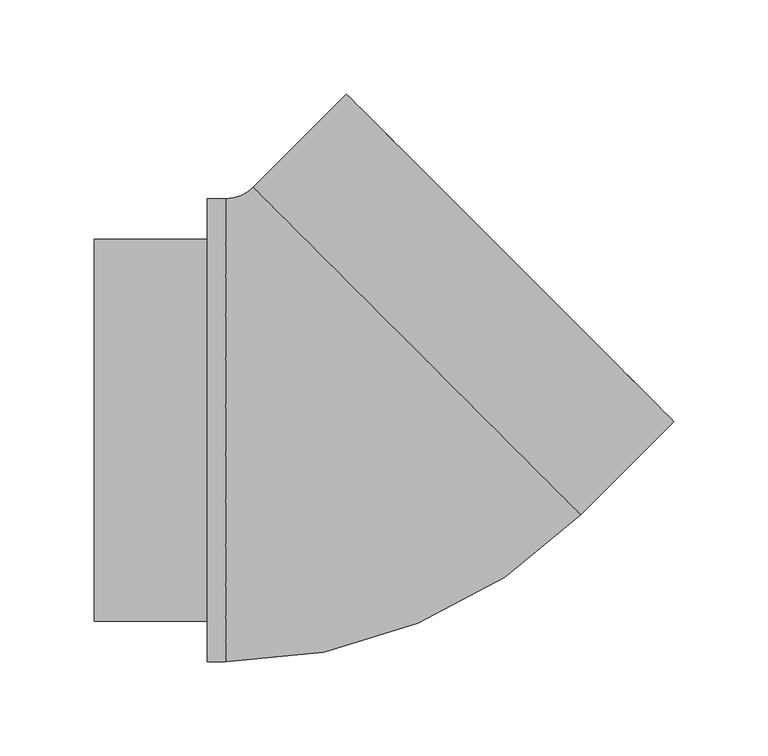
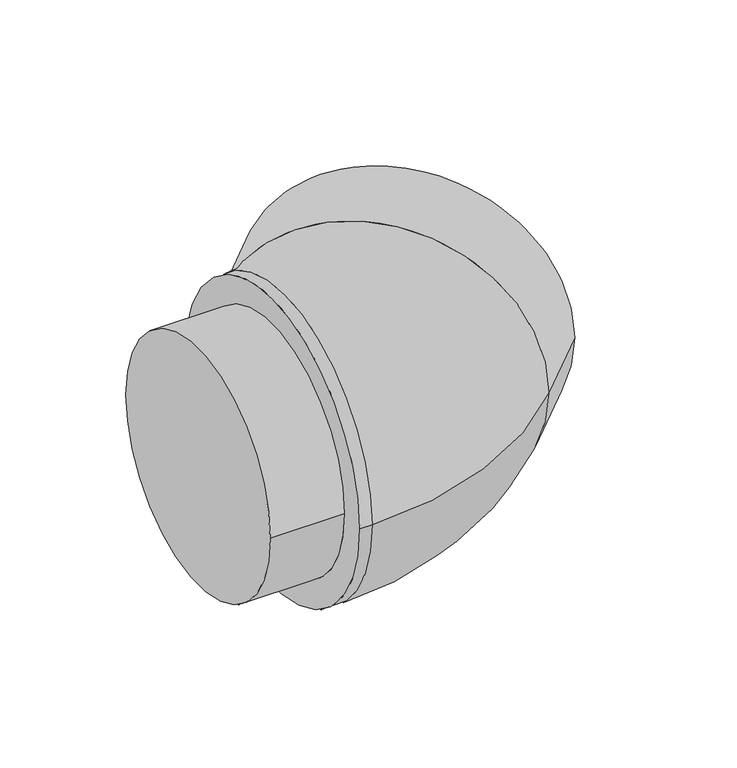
"""IFC4 building model written with IfcOpenShell, lengths in millimetres: duct fitting geometry, NLRS_57_DUF_UN_bend EPP+_MG : ø160 - ø200."""

from ifc_helpers import new_model, si_unit, point, frame, origin, place, context, project, spatial, polyline, circle_curve, ellipse_curve, trimmed, source, transform, mapped, element, save
from ifc_brep_helpers import plane_surface, cylinder_surface, revolved_surface, advanced_brep


def duct_fitting_b0555108(model_context):
    return source(origin(), model_context, "Body", "AdvancedBrep", [
        advanced_brep(
        [(-129.5, 101.5, 0.0), (-129.5, -101.5, 0.0), (-59.5, -123.0, 0.0), (-59.5, 123.0, 0.0), (-69.5, 123.0, 0.0), (-69.5, -123.0, 0.0), (129.0469876, -44.9012806, 0.0), (-44.9012806, 129.0469876, 0.0), (178.5444622, 4.5961941, 0.0), (4.5961941, 178.5444622, 0.0), (163.3416665, 19.7989899, 0.0), (19.7989899, 163.3416665, 0.0), (120.9152596, -22.627417, 0.0), (-22.627417, 120.9152596, 0.0), (-69.5, 101.5, 0.0), (-69.5, -101.5, 0.0)],
        [
            (0, 1, circle_curve(frame((-129.5, 0.0, 0.0), z_axis=(-1.0, 0.0, 0.0), x_axis=(0.0, -1.0, 0.0)), 101.5)),
            (1, 0, circle_curve(frame((-129.5, 0.0, 0.0), z_axis=(-1.0, 0.0, 0.0), x_axis=(0.0, -1.0, 0.0)), 101.5)),
            (2, 3, circle_curve(frame((-59.5, 0.0, 0.0), z_axis=(-1.0, 0.0, 0.0), x_axis=(0.0, 1.0, 0.0)), 123.0)),
            (3, 4),
            (4, 5, circle_curve(frame((-69.5, 0.0, 0.0), z_axis=(1.0, 0.0, 0.0), x_axis=(0.0, 1.0, 0.0)), 123.0)),
            (5, 2),
            (3, 2, circle_curve(frame((-59.5, 0.0, 0.0), z_axis=(-1.0, 0.0, 0.0), x_axis=(0.0, 1.0, 0.0)), 123.0)),
            (5, 4, circle_curve(frame((-69.5, 0.0, 0.0), z_axis=(1.0, 0.0, 0.0), x_axis=(0.0, 1.0, 0.0)), 123.0)),
            (2, 6, circle_curve(frame((-59.5, 143.645707, 0.0), z_axis=(0.0, 0.0, 1.0), x_axis=(0.0, -1.0, 0.0)), 266.645707)),
            (6, 7, circle_curve(frame((42.0728535, 42.0728535, 0.0), z_axis=(-0.7071067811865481, -0.7071067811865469, 0.0), x_axis=(-0.7071067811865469, 0.7071067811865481, 0.0)), 123.0)),
            (7, 3, circle_curve(frame((-59.5, 143.645707, 0.0), z_axis=(0.0, 0.0, -1.0), x_axis=(0.0, -1.0, 0.0)), 20.645707)),
            (7, 6, circle_curve(frame((42.0728535, 42.0728535, 0.0), z_axis=(-0.70710678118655, -0.707106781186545, 0.0), x_axis=(-0.707106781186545, 0.70710678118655, 0.0)), 123.0)),
            (8, 9, circle_curve(frame((91.5703282, 91.5703282, 0.0), z_axis=(0.7071067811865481, 0.707106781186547, 0.0), x_axis=(-0.707106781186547, 0.7071067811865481, 0.0)), 123.0)),
            (9, 8, circle_curve(frame((91.5703282, 91.5703282, 0.0), z_axis=(0.7071067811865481, 0.707106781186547, 0.0), x_axis=(-0.707106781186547, 0.7071067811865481, 0.0)), 123.0)),
            (10, 11, circle_curve(frame((91.5703282, 91.5703282, 0.0), z_axis=(-0.7071067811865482, -0.7071067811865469, 0.0), x_axis=(-0.7071067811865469, 0.7071067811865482, 0.0)), 101.5)),
            (11, 10, circle_curve(frame((91.5703282, 91.5703282, 0.0), z_axis=(-0.7071067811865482, -0.7071067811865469, 0.0), x_axis=(-0.7071067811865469, 0.7071067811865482, 0.0)), 101.5)),
            (6, 8),
            (9, 7),
            (12, 13, circle_curve(frame((49.1439213, 49.1439213, 0.0), z_axis=(0.7071067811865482, 0.7071067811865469, 0.0), x_axis=(-0.7071067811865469, 0.7071067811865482, 0.0)), 101.5)),
            (13, 12, circle_curve(frame((49.1439213, 49.1439213, 0.0), z_axis=(0.7071067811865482, 0.7071067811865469, 0.0), x_axis=(-0.7071067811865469, 0.7071067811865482, 0.0)), 101.5)),
            (13, 11),
            (10, 12),
            (14, 15, circle_curve(frame((-69.5, 0.0, 0.0), z_axis=(1.0, 0.0, 0.0), x_axis=(0.0, -1.0, 0.0)), 101.5)),
            (15, 14, circle_curve(frame((-69.5, 0.0, 0.0), z_axis=(1.0, 0.0, 0.0), x_axis=(0.0, -1.0, 0.0)), 101.5)),
            (15, 1),
            (0, 14),
        ],
        [
            plane_surface(frame((-129.5, 0.0, 0.0), z_axis=(-1.0, 0.0, 0.0), x_axis=(0.0, 0.0, 1.0))),
            cylinder_surface(frame((-129.5, 0.0, 0.0), z_axis=(-1.0, 0.0, 0.0), x_axis=(0.0, 1.0, 0.0)), 123.0),
            revolved_surface(trimmed(ellipse_curve(frame((-59.5, 0.0, 0.0), z_axis=(-1.0, 0.0, 0.0), x_axis=(0.0, 1.0, 0.0)), 123.0, 123.0), [point((-59.5, -123.0, 0.0))], [point((-59.5, 123.0, 0.0))], True, "CARTESIAN"), (-59.5, 143.645707, 0.0), (0.0, 0.0, 1.0)),
            revolved_surface(trimmed(ellipse_curve(frame((-59.5, 0.0, 0.0), z_axis=(-1.0, 0.0, 0.0), x_axis=(0.0, 1.0, 0.0)), 123.0, 123.0), [point((-59.5, 123.0, 0.0))], [point((-59.5, -123.0, 0.0))], True, "CARTESIAN"), (-59.5, 143.645707, 0.0), (0.0, 0.0, 1.0)),
            plane_surface(frame((91.5703282, 91.5703282, 0.0), z_axis=(0.7071067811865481, 0.707106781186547, 0.0), x_axis=(0.0, 0.0, 1.0))),
            cylinder_surface(frame((42.0728535, 42.0728535, 0.0), z_axis=(-0.7071067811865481, -0.707106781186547, 0.0), x_axis=(-0.707106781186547, 0.7071067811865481, 0.0)), 123.0),
            plane_surface(frame((49.1439213, 49.1439213, 0.0), z_axis=(0.7071067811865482, 0.7071067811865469, 0.0), x_axis=(0.0, 0.0, 1.0))),
            revolved_surface(polyline([(-22.627416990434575, 120.91525959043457, 0.0), (19.798989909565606, 163.34166649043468, 0.0)]), (49.1439213, 49.1439213, 0.0), (-0.7071067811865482, -0.7071067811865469, 0.0)),
            plane_surface(frame((-69.5, 0.0, 0.0), z_axis=(-1.0, 0.0, 0.0), x_axis=(0.0, 0.0, 1.0))),
            cylinder_surface(frame((-69.5, 0.0, 0.0), z_axis=(-1.0, 0.0, 0.0), x_axis=(0.0, -1.0, 0.0)), 101.5),
        ],
        [
            (0, [[1, 2]]),
            (1, [[3, 4, 5, 6]]),
            (1, [[7, -6, 8, -4]]),
            (2, [[-3, 9, 10, 11]]),
            (3, [[-7, -11, 12, -9]]),
            (4, [[13, 14], [15, 16]]),
            (5, [[-10, 17, -14, 18]]),
            (5, [[-12, -18, -13, -17]]),
            (6, [[19, 20]]),
            (7, [[-20, 21, -15, 22]]),
            (7, [[-19, -22, -16, -21]]),
            (8, [[-5, -8], [23, 24]]),
            (9, [[-24, 25, -1, 26]]),
            (9, [[-23, -26, -2, -25]]),
        ],
    ),
    ])


if __name__ == "__main__":
    model = new_model("IFC4")
    model_context = context("Model", 3, world=origin())
    ifc_project = project(units=[si_unit("LENGTHUNIT", "METRE", prefix="MILLI")], contexts=[model_context])
    site = spatial("IfcSite", under=ifc_project)
    building = spatial("IfcBuilding", under=site)
    placement = place(None, origin())
    duct_fitting_shape = duct_fitting_b0555108(model_context)
    element("IfcDuctFitting", 1, ObjectType="NLRS_57_DUF_UN_bend EPP+_MG : ø160 - ø200", at=placement, inside=building, context=model_context, shape_type="MappedRepresentation", body=[
        mapped(duct_fitting_shape, transform((0.0, 0.0, 0.0), x_axis=(1.0, 0.0, 0.0), y_axis=(0.0, 1.0, 0.0), z_axis=(0.0, 0.0, 1.0))),
    ])
    save(model, "model.ifc")
